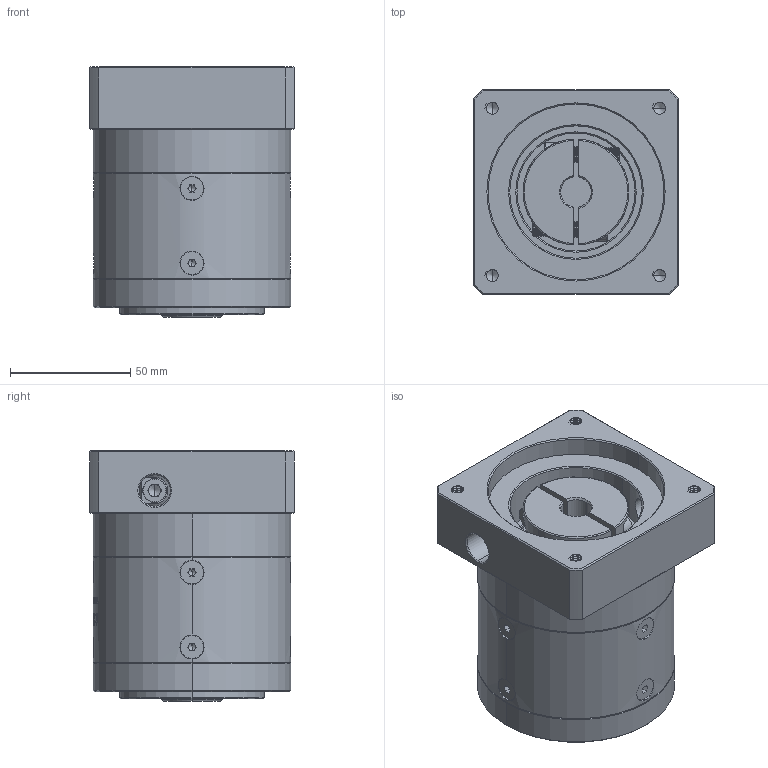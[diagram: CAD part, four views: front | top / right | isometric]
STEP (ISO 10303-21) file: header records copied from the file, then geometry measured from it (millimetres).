
FILE_DESCRIPTION (( 'STEP AP214' ), '1' );
FILE_NAME ('ZE80-K15-L1-12.7-73-69.5X69.5-M6.step', '2022-05-08T05:56:03', ( '' ), ( 'Microsoft' ), 'SwSTEP 2.0', 'SolidWorks 2016', '' );
FILE_SCHEMA (( 'AUTOMOTIVE_DESIGN' ));
Length unit declared in the file: millimetre
Products named in the file (1): ZE80-K15-L1-12.7-73-69.5X69.5-M6
Bounding box: 85 x 85 x 104 mm (x, y, z)
Volume: 501533.5 mm3; surface area: 84246.9 mm2
Topology: 13 solids, 13 shells, 2024 faces, 5275 edges, 3339 vertices
Faces by surface type: plane 884, cylinder 473, cone 328, bspline 322, torus 17
Entity records: 112586 total; most frequent: CARTESIAN_POINT 44815, ORIENTED_EDGE 10478, DIRECTION 8102, EDGE_CURVE 5239, VERTEX_POINT 3339, LINE 2830, VECTOR 2830, AXIS2_PLACEMENT_3D 2636
